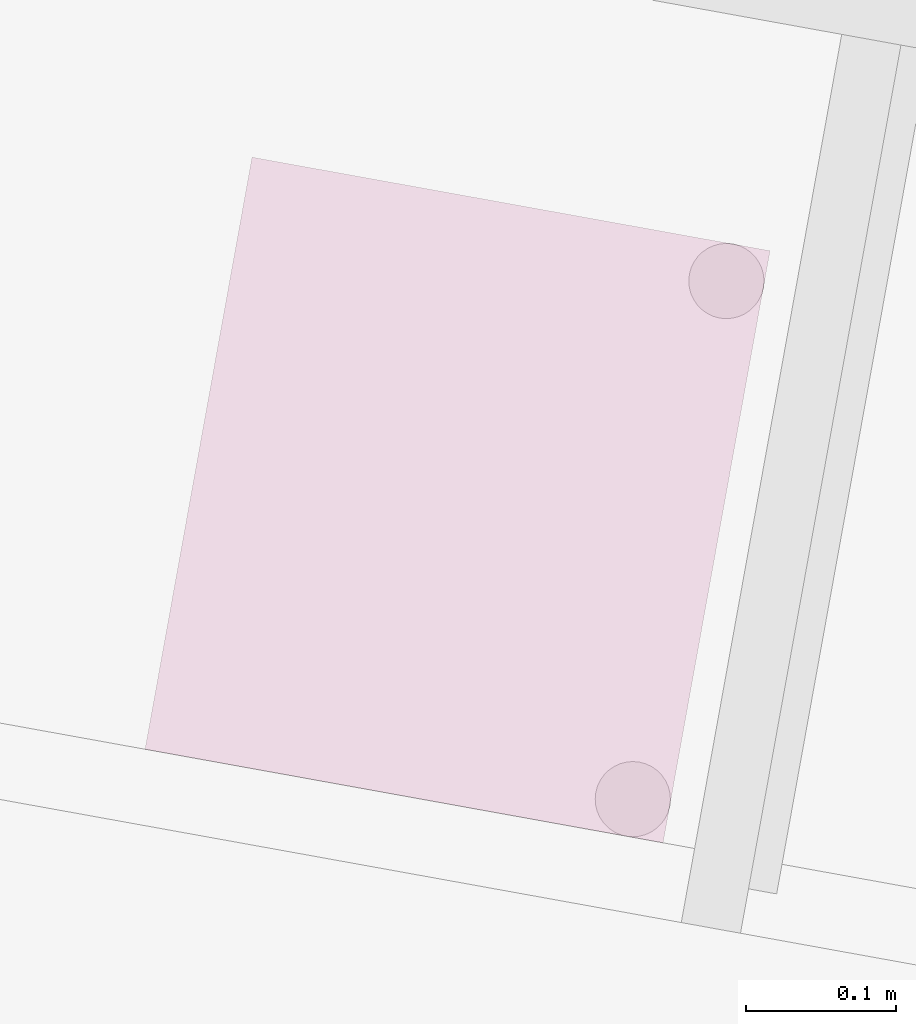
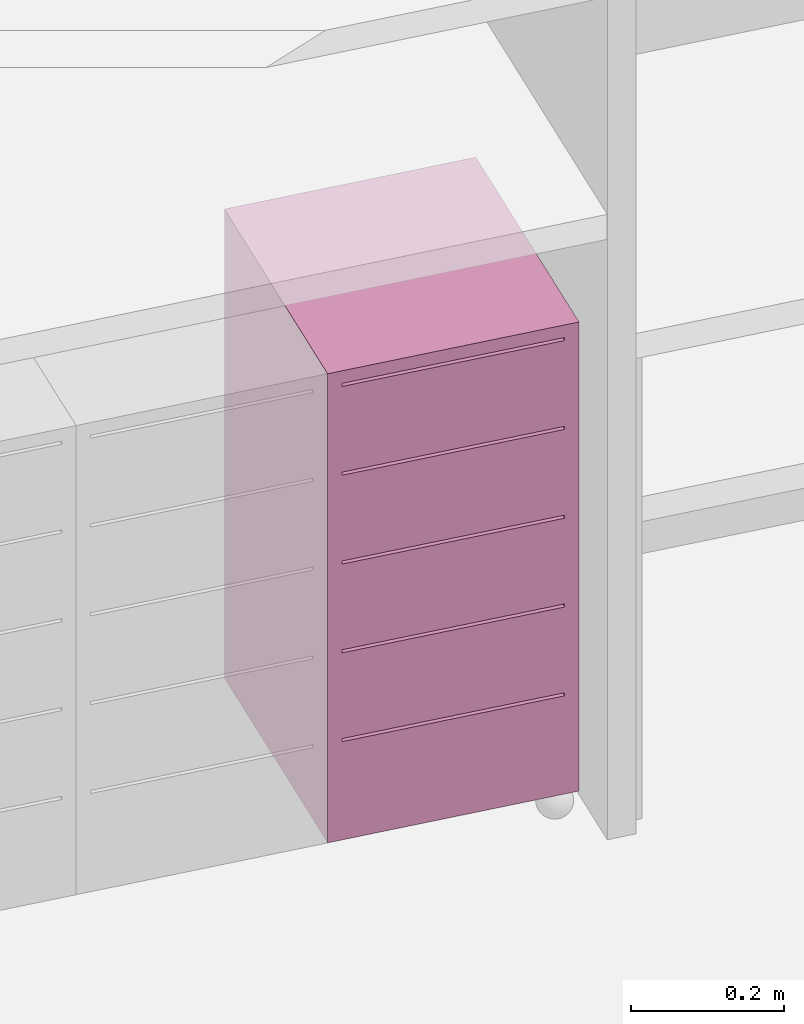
# One storey, part 16 of 79: 1 furnishing.
"""IFC2X3 building model written with IfcOpenShell, lengths in metres."""

import ifcopenshell
import ifcopenshell.guid

model = None  # the IFC model being written
_history = None  # IfcOwnerHistory: only IFC2X3 demands one
_inside = {}  # id of a spatial element -> (the spatial element, [elements in it])
_under = {}  # id of a project, library or spatial element -> (it, [spatial elements below it])
_declared = {}  # id of a project -> (the project, [libraries it declares])
_typed = {}  # id of a type object -> (the type object, [elements of that type])
_made_of = {}  # id of a material, layer set ... -> (it, [elements and type objects made of it])


def new_model(schema):
    """Start an empty IFC model of exactly this schema.

    Asked for "IFC4X3", IfcOpenShell would pick the latest addendum, in which some entities
    have other attributes; the version numbers below select the first issue.
    IFC2X3 requires an IfcOwnerHistory on every rooted entity: one is made here for all.
    """
    global model, _history
    if schema == "IFC4X3":
        model = ifcopenshell.file(schema_version=(4, 3, 0, 0))
    else:
        model = ifcopenshell.file(schema=schema)
    _inside.clear()
    _under.clear()
    _declared.clear()
    _typed.clear()
    _made_of.clear()
    _history = None
    if model.schema == "IFC2X3":
        org = make("IfcOrganization", Name="unknown")
        user = make(
            "IfcPersonAndOrganization",
            ThePerson=make("IfcPerson", FamilyName="unknown"),
            TheOrganization=org,
        )
        app = make(
            "IfcApplication",
            ApplicationDeveloper=org,
            Version="unknown",
            ApplicationFullName="unknown",
            ApplicationIdentifier="unknown",
        )
        _history = make(
            "IfcOwnerHistory",
            OwningUser=user,
            OwningApplication=app,
            ChangeAction="ADDED",
            CreationDate=0,
        )
    return model


def make(cls, **values):
    """One entity of the class cls with the attributes given. An attribute that is None is left unset."""
    return model.create_entity(
        cls, **{name: value for name, value in values.items() if value is not None}
    )


def entity(cls, *values):
    """Any entity or typed value of the class cls, its attributes in the order of the schema. None: left unset."""
    e = model.create_entity(cls)
    for i, value in enumerate(values):
        if value is not None:
            e[i] = value
    return e


def rooted(cls, **values):
    """An entity with a GlobalId (a new one), such as an element, a storey or a relation."""
    return make(cls, GlobalId=ifcopenshell.guid.new(), OwnerHistory=_history, **values)


def si_unit(unit_type, name, prefix=None):
    """IfcSIUnit, for example si_unit("LENGTHUNIT", "METRE", prefix="MILLI")."""
    return make("IfcSIUnit", UnitType=unit_type, Prefix=prefix, Name=name)


def converted_unit(unit_type, name, factor, base, dimensions=None, offset=None):
    """IfcConversionBasedUnit, such as the inch: factor (a typed value) times the base unit."""
    return make(
        "IfcConversionBasedUnit"
        if offset is None
        else "IfcConversionBasedUnitWithOffset",
        ConversionOffset=offset,
        Dimensions=None
        if dimensions is None
        else entity("IfcDimensionalExponents", *dimensions),
        UnitType=unit_type,
        Name=name,
        ConversionFactor=make(
            "IfcMeasureWithUnit", ValueComponent=factor, UnitComponent=base
        ),
    )


def derived_unit(unit_type, elements):
    """IfcDerivedUnit: a product of units, each with its exponent."""
    return make(
        "IfcDerivedUnit",
        Elements=[
            make("IfcDerivedUnitElement", Unit=unit, Exponent=power)
            for unit, power in elements
        ],
        UnitType=unit_type,
    )


def money_unit(currency):
    """IfcMonetaryUnit."""
    return make("IfcMonetaryUnit", Currency=currency)


def assignment(units):
    """IfcUnitAssignment: the units of a project."""
    return None if units is None else make("IfcUnitAssignment", Units=units)


def point(xyz):
    """IfcCartesianPoint."""
    return None if xyz is None else make("IfcCartesianPoint", Coordinates=xyz)


def direction(xyz):
    """IfcDirection."""
    return None if xyz is None else make("IfcDirection", DirectionRatios=xyz)


def frame(location, z_axis=None, x_axis=None):
    """IfcAxis2Placement3D, a coordinate frame: its origin and axes. An axis left out is left unset."""
    return make(
        "IfcAxis2Placement3D",
        Location=point(location),
        Axis=direction(z_axis),
        RefDirection=direction(x_axis),
    )


def origin_with_axes():
    """The frame at (0, 0, 0) with the z axis (0, 0, 1) and the x axis (1, 0, 0) written out."""
    return frame((0.0, 0.0, 0.0), z_axis=(0.0, 0.0, 1.0), x_axis=(1.0, 0.0, 0.0))


def place(relative_to, where):
    """IfcLocalPlacement: puts the frame where relative to a parent placement (None: the world)."""
    return make(
        "IfcLocalPlacement", PlacementRelTo=relative_to, RelativePlacement=where
    )


def context(
    kind, dimensions, precision=None, world=None, true_north=None, identifier=None
):
    """IfcGeometricRepresentationContext, for example the 3D "Model" context."""
    return make(
        "IfcGeometricRepresentationContext",
        ContextIdentifier=identifier,
        ContextType=kind,
        CoordinateSpaceDimension=dimensions,
        Precision=precision,
        WorldCoordinateSystem=world,
        TrueNorth=true_north,
    )


def subcontext(parent, identifier, kind, view, scale=None):
    """IfcGeometricRepresentationSubContext, for example "Body" below "Model"."""
    return make(
        "IfcGeometricRepresentationSubContext",
        ContextIdentifier=identifier,
        ContextType=kind,
        ParentContext=parent,
        TargetScale=scale,
        TargetView=view,
    )


def project(units=None, contexts=None):
    """IfcProject with its units and contexts."""
    return rooted(
        "IfcProject",
        Name="project",
        RepresentationContexts=contexts,
        UnitsInContext=assignment(units),
    )


def spatial(cls, under=None, at=None, **own):
    """A site, building, storey or space (cls), placed at a placement, below another one or the project."""
    s = rooted(cls, ObjectPlacement=at, **own)
    if under is not None:
        _under.setdefault(under.id(), (under, []))[1].append(s)
    return s


def faces_of(points, faces, orient=None, outer=None):
    """IfcFace entities. A face is a list of loops; a loop is a list of indices into points, from 0.

    orient and outer hold one flag for each loop. By default every Orientation is true, the
    first loop of a face is its IfcFaceOuterBound and the others are IfcFaceBound.
    """
    made = []
    for i, loops in enumerate(faces):
        bounds = []
        for j, loop in enumerate(loops):
            is_outer = j == 0 if outer is None else outer[i][j]
            bounds.append(
                make(
                    "IfcFaceOuterBound" if is_outer else "IfcFaceBound",
                    Bound=make("IfcPolyLoop", Polygon=[points[k] for k in loop]),
                    Orientation=True if orient is None else orient[i][j],
                )
            )
        made.append(make("IfcFace", Bounds=bounds))
    return made


def open_shell(faces, orient=None, outer=None):
    """The faces of one IfcOpenShell. surface_model builds it on its shared points."""
    return ("IfcOpenShell", faces, orient, outer)


def faceted_brep(points, faces, orient=None, outer=None, voids=None):
    """IfcFacetedBrep: a solid bounded by flat faces; with voids (closed shells), ...WithVoids."""
    shared = [point(p) for p in points]
    hull = make("IfcClosedShell", CfsFaces=faces_of(shared, faces, orient, outer))
    if voids is None:
        return make("IfcFacetedBrep", Outer=hull)
    return make(
        "IfcFacetedBrepWithVoids",
        Outer=hull,
        Voids=[
            make(cls, CfsFaces=faces_of(shared, fs, o, b)) for cls, fs, o, b in voids
        ],
    )


def surface_model(cls, points, shells):
    """IfcFaceBasedSurfaceModel or IfcShellBasedSurfaceModel (cls): surfaces that need not close."""
    shared = [point(p) for p in points]
    made = [make(c, CfsFaces=faces_of(shared, fs, o, b)) for c, fs, o, b in shells]
    if cls == "IfcFaceBasedSurfaceModel":
        return make(cls, FbsmFaces=made)
    return make(cls, SbsmBoundary=made)


def shape(context_of_items, identifier, shape_type, items):
    """IfcShapeRepresentation: the items that make up one representation, for example the "Body"."""
    return make(
        "IfcShapeRepresentation",
        ContextOfItems=context_of_items,
        RepresentationIdentifier=identifier,
        RepresentationType=shape_type,
        Items=items,
    )


def source(mapping_origin, context_of_items, identifier, shape_type, items):
    """IfcRepresentationMap: a shape defined once, which mapped items show again and again."""
    return make(
        "IfcRepresentationMap",
        MappingOrigin=mapping_origin,
        MappedRepresentation=shape(context_of_items, identifier, shape_type, items),
    )


def transform(
    local_origin,
    x_axis=None,
    y_axis=None,
    z_axis=None,
    scale=None,
    scale2=None,
    scale3=None,
    uniform=True,
):
    """IfcCartesianTransformationOperator3D, or its non-uniform kind. x_axis, y_axis, z_axis: its Axis1, 2, 3."""
    if uniform:
        return make(
            "IfcCartesianTransformationOperator3D",
            Axis1=direction(x_axis),
            Axis2=direction(y_axis),
            LocalOrigin=point(local_origin),
            Scale=scale,
            Axis3=direction(z_axis),
        )
    return make(
        "IfcCartesianTransformationOperator3DnonUniform",
        Axis1=direction(x_axis),
        Axis2=direction(y_axis),
        LocalOrigin=point(local_origin),
        Scale=scale,
        Axis3=direction(z_axis),
        Scale2=scale2,
        Scale3=scale3,
    )


def mapped(mapping_source, mapping_target):
    """IfcMappedItem: shows the shape of a source again, moved by a transform."""
    return make(
        "IfcMappedItem", MappingSource=mapping_source, MappingTarget=mapping_target
    )


def material(Name=None, Category=None):
    """IfcMaterial."""
    return make("IfcMaterial", Name=Name, Category=Category)


def made_of(thing, what):
    """Note that an element or type object is made of a material, layer set ...; save() writes the relation."""
    if what is not None:
        _made_of.setdefault(what.id(), (what, []))[1].append(thing)
    return thing


def type_object(cls, material=None, **own):
    """A type object (cls), such as IfcWallType, which elements share."""
    return made_of(rooted(cls, **own), material)


def element(
    cls,
    number,
    at=None,
    inside=None,
    cuts=None,
    type_object=None,
    material=None,
    context=None,
    identifier="Body",
    shape_type=None,
    held_by="IfcProductDefinitionShape",
    body=None,
    shapes=None,
    **own,
):
    """One element of the class cls, such as IfcWall. Its Tag is "e" and its number.

    at: its placement. inside: the storey or other place that contains it. cuts: it is an
    opening in that element (IfcRelVoidsElement). A single representation is given by context,
    identifier, shape_type and body (its items); several are given by shapes. held_by: the class
    of the entity that holds the representations. save() writes the other relations.
    """
    e = rooted(cls, Tag="e%d" % number, ObjectPlacement=at, **own)
    if body is not None:
        shapes = [shape(context, identifier, shape_type, body)]
    if shapes is not None:
        e.Representation = make(held_by, Representations=shapes)
    if inside is not None:
        _inside.setdefault(inside.id(), (inside, []))[1].append(e)
    if cuts is not None:
        rooted(
            "IfcRelVoidsElement", RelatingBuildingElement=cuts, RelatedOpeningElement=e
        )
    if type_object is not None:
        _typed.setdefault(type_object.id(), (type_object, []))[1].append(e)
    return made_of(e, material)


def aggregate(whole, parts):
    """IfcRelAggregates: a whole, such as a stair, and the parts it consists of."""
    return rooted("IfcRelAggregates", RelatingObject=whole, RelatedObjects=parts)


def save(model, path):
    """Write the relations noted so far, then the file.

    IfcRelAggregates (storeys below a building ...), IfcRelContainedInSpatialStructure (elements
    in a storey), IfcRelDefinesByType, IfcRelAssociatesMaterial and IfcRelDeclares: one each for
    every whole, place, type object, material and project.
    """
    for whole, parts in _under.values():
        aggregate(whole, parts)
    for where, things in _inside.values():
        rooted(
            "IfcRelContainedInSpatialStructure",
            RelatedElements=things,
            RelatingStructure=where,
        )
    for kind, things in _typed.values():
        rooted("IfcRelDefinesByType", RelatedObjects=things, RelatingType=kind)
    for what, things in _made_of.values():
        rooted("IfcRelAssociatesMaterial", RelatedObjects=things, RelatingMaterial=what)
    for by, libraries in _declared.values():
        rooted("IfcRelDeclares", RelatingContext=by, RelatedDefinitions=libraries)
    model.write(path)


model = new_model("IFC2X3")

# Units and contexts
model_context = context("Model", 3, precision=1e-05, world=origin_with_axes(), true_north=direction((0.0, 1.0)))
body_context = subcontext(model_context, "Body", "Model", "MODEL_VIEW")
ifc_project = project(units=[si_unit("LENGTHUNIT", "METRE"), si_unit("AREAUNIT", "SQUARE_METRE"), si_unit("VOLUMEUNIT", "CUBIC_METRE"), converted_unit("PLANEANGLEUNIT", "DEGREE", entity("IfcPlaneAngleMeasure", 0.0174532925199), si_unit("PLANEANGLEUNIT", "RADIAN"), dimensions=[0, 0, 0, 0, 0, 0, 0]), money_unit("CHF"), converted_unit("TIMEUNIT", "Year", entity("IfcTimeMeasure", 31556926.0), si_unit("TIMEUNIT", "SECOND"), dimensions=[0, 0, 1, 0, 0, 0, 0]), si_unit("MASSUNIT", "GRAM", prefix="KILO"), si_unit("THERMODYNAMICTEMPERATUREUNIT", "DEGREE_CELSIUS"), si_unit("LUMINOUSINTENSITYUNIT", "LUMEN"), si_unit("ENERGYUNIT", "JOULE", prefix="MEGA"), derived_unit("THERMALCONDUCTANCEUNIT", [(si_unit("POWERUNIT", "WATT"), 1), (si_unit("LENGTHUNIT", "METRE"), -1), (si_unit("THERMODYNAMICTEMPERATUREUNIT", "KELVIN"), -1)]), derived_unit("SPECIFICHEATCAPACITYUNIT", [(si_unit("ENERGYUNIT", "JOULE"), 1), (si_unit("MASSUNIT", "GRAM", prefix="KILO"), -1), (si_unit("THERMODYNAMICTEMPERATUREUNIT", "KELVIN"), -1)]), derived_unit("MASSDENSITYUNIT", [(si_unit("MASSUNIT", "GRAM", prefix="KILO"), 1), (si_unit("VOLUMEUNIT", "CUBIC_METRE"), -1)])], contexts=[model_context])

# Site, building, storey
site_placement = place(None, frame((0.0, 0.0, 0.0), z_axis=(0.0, 0.0, 1.0), x_axis=(-0.177771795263, -0.984071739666, 0.0)))
site = spatial("IfcSite", under=ifc_project, at=site_placement, Name="Site", CompositionType="ELEMENT")
building_placement = place(site_placement, origin_with_axes())
building = spatial("IfcBuilding", under=site, at=building_placement, Name="Bâtiment", CompositionType="ELEMENT")
storey_placement = place(building_placement, origin_with_axes())
storey = spatial("IfcBuildingStorey", under=building, at=storey_placement, Name="RDC", CompositionType="ELEMENT", Elevation=0.0)

# Furnishing
ifc_material = material(Name="Matériau de construction IFC")
furnishing_element_type = type_object("IfcFurnishingElementType", Name="Caisson à roulettes 3 21")
shared_shape = source(origin_with_axes(), body_context, "Body", "SurfaceModel", [
    surface_model("IfcShellBasedSurfaceModel", [(0.33, 0.02, 0.0), (0.02, 0.02, 0.0), (0.02, 0.4, 0.0), (0.33, 0.4, 0.0)], [open_shell([[[0, 1, 2, 3]]])]),
    faceted_brep([(0.0, 0.4, 0.0), (0.35, 0.4, 0.0), (0.35, 0.0, 0.0), (0.0, 0.0, 0.0), (0.0, 0.4, 0.75), (0.35, 0.4, 0.75), (0.02, 0.4, 0.02), (0.33, 0.4, 0.02), (0.33, 0.4, 0.73), (0.02, 0.4, 0.73), (0.35, 0.0, 0.75), (0.0, 0.0, 0.75), (0.02, 0.0, 0.02), (0.02, 0.0, 0.73), (0.33, 0.0, 0.73), (0.33, 0.0, 0.02)], [[[0, 1, 2, 3]], [[0, 4, 5, 1], [6, 7, 8, 9]], [[1, 5, 10, 2]], [[3, 2, 10, 11], [12, 13, 14, 15]], [[4, 0, 3, 11]], [[5, 4, 11, 10]], [[7, 6, 12, 15]], [[8, 7, 15, 14]], [[9, 8, 14, 13]], [[6, 9, 13, 12]]]),
    faceted_brep([(0.33, 0.4, 0.02), (0.02, 0.4, 0.02), (0.02, 0.4, 0.73), (0.33, 0.4, 0.73), (0.33, 0.38, 0.02), (0.02, 0.38, 0.02), (0.02, 0.38, 0.73), (0.33, 0.38, 0.73)], [[[0, 1, 2, 3]], [[1, 0, 4, 5]], [[2, 1, 5, 6]], [[3, 2, 6, 7]], [[0, 3, 7, 4]], [[5, 4, 7, 6]]]),
    faceted_brep([(0.33, 0.0, 0.02), (0.02, 0.0, 0.02), (0.02, 0.38, 0.02), (0.33, 0.38, 0.02), (0.33, 0.0, 0.157), (0.02, 0.0, 0.157), (0.02, 0.38, 0.157), (0.33, 0.38, 0.157)], [[[0, 1, 2, 3]], [[1, 0, 4, 5]], [[2, 1, 5, 6]], [[3, 2, 6, 7]], [[0, 3, 7, 4]], [[5, 4, 7, 6]]]),
    faceted_brep([(0.33, 0.0, 0.162), (0.02, 0.0, 0.162), (0.02, 0.38, 0.162), (0.33, 0.38, 0.162), (0.33, 0.0, 0.299), (0.02, 0.0, 0.299), (0.02, 0.38, 0.299), (0.33, 0.38, 0.299)], [[[0, 1, 2, 3]], [[1, 0, 4, 5]], [[2, 1, 5, 6]], [[3, 2, 6, 7]], [[0, 3, 7, 4]], [[5, 4, 7, 6]]]),
    faceted_brep([(0.33, 0.0, 0.304), (0.02, 0.0, 0.304), (0.02, 0.38, 0.304), (0.33, 0.38, 0.304), (0.33, 0.0, 0.441), (0.02, 0.0, 0.441), (0.02, 0.38, 0.441), (0.33, 0.38, 0.441)], [[[0, 1, 2, 3]], [[1, 0, 4, 5]], [[2, 1, 5, 6]], [[3, 2, 6, 7]], [[0, 3, 7, 4]], [[5, 4, 7, 6]]]),
    faceted_brep([(0.33, 0.0, 0.446), (0.02, 0.0, 0.446), (0.02, 0.38, 0.446), (0.33, 0.38, 0.446), (0.33, 0.0, 0.583), (0.02, 0.0, 0.583), (0.02, 0.38, 0.583), (0.33, 0.38, 0.583)], [[[0, 1, 2, 3]], [[1, 0, 4, 5]], [[2, 1, 5, 6]], [[3, 2, 6, 7]], [[0, 3, 7, 4]], [[5, 4, 7, 6]]]),
    faceted_brep([(0.33, 0.0, 0.588), (0.02, 0.0, 0.588), (0.02, 0.38, 0.588), (0.33, 0.38, 0.588), (0.33, 0.0, 0.725), (0.02, 0.0, 0.725), (0.02, 0.38, 0.725), (0.33, 0.38, 0.725)], [[[0, 1, 2, 3]], [[1, 0, 4, 5]], [[2, 1, 5, 6]], [[3, 2, 6, 7]], [[0, 3, 7, 4]], [[5, 4, 7, 6]]]),
])
furnishing_placement = place(storey_placement, frame((129.234860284, -155.349529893, 0.05), z_axis=(0.0, 0.0, 1.0), x_axis=(0.0, 1.0, 0.0)))
element("IfcFurnishingElement", 1, at=furnishing_placement, inside=storey, type_object=furnishing_element_type, material=ifc_material, Name="tiroirs-classe", ObjectType="SYSTEM_FURNITURE", context=body_context, shape_type="MappedRepresentation", body=[
    mapped(shared_shape, transform((0.0, 0.0, 0.0))),
])

save(model, "model.ifc")
